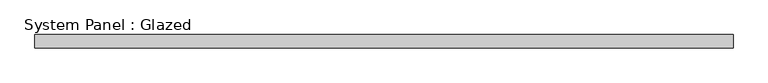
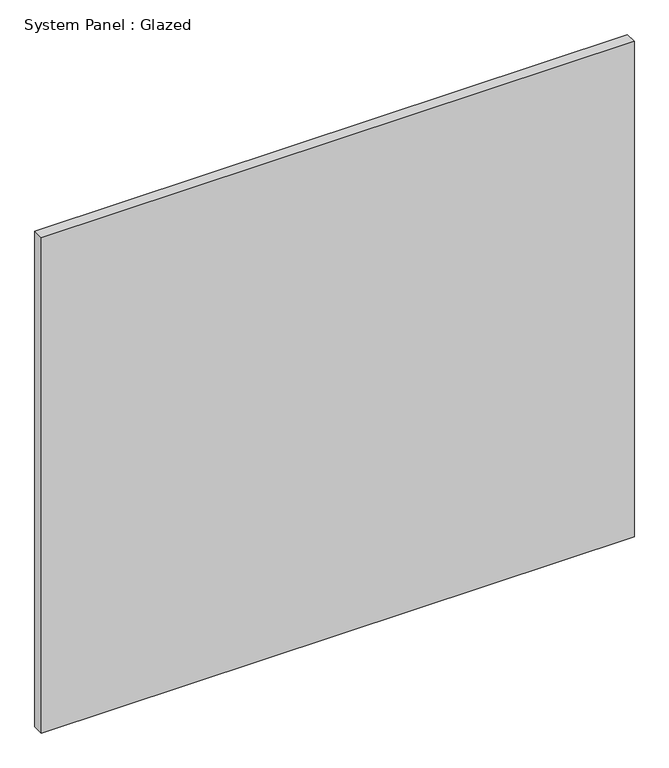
"""IFC4 building model written with IfcOpenShell, lengths in millimetres: plate geometry, System Panel : Glazed."""

from ifc_helpers import new_model, si_unit, origin, origin_with_axes, place, context, project, spatial, polyline, outline, extrude, source, transform, mapped, element, save


def system_panel_glazed_1d396b08(model_context):
    return source(origin(), model_context, "Body", "SweptSolid", [
        extrude(outline(polyline([(651.2606048, -49.5), (-651.2606048, -49.5), (-651.2606048, -24.5), (651.2606048, -24.5), (651.2606048, -49.5)])), origin_with_axes(), (0.0, 0.0, 1.0), 1150.0),
    ])


if __name__ == "__main__":
    model = new_model("IFC4")
    model_context = context("Model", 3, world=origin())
    ifc_project = project(units=[si_unit("LENGTHUNIT", "METRE", prefix="MILLI")], contexts=[model_context])
    site = spatial("IfcSite", under=ifc_project)
    building = spatial("IfcBuilding", under=site)
    placement = place(None, origin())
    system_panel_glazed_shape = system_panel_glazed_1d396b08(model_context)
    element("IfcPlate", 1, ObjectType="System Panel : Glazed", at=placement, inside=building, context=model_context, shape_type="MappedRepresentation", body=[
        mapped(system_panel_glazed_shape, transform((0.0, 0.0, 0.0), x_axis=(1.0, 0.0, 0.0), y_axis=(0.0, 1.0, 0.0), z_axis=(0.0, 0.0, 1.0))),
    ])
    save(model, "model.ifc")
